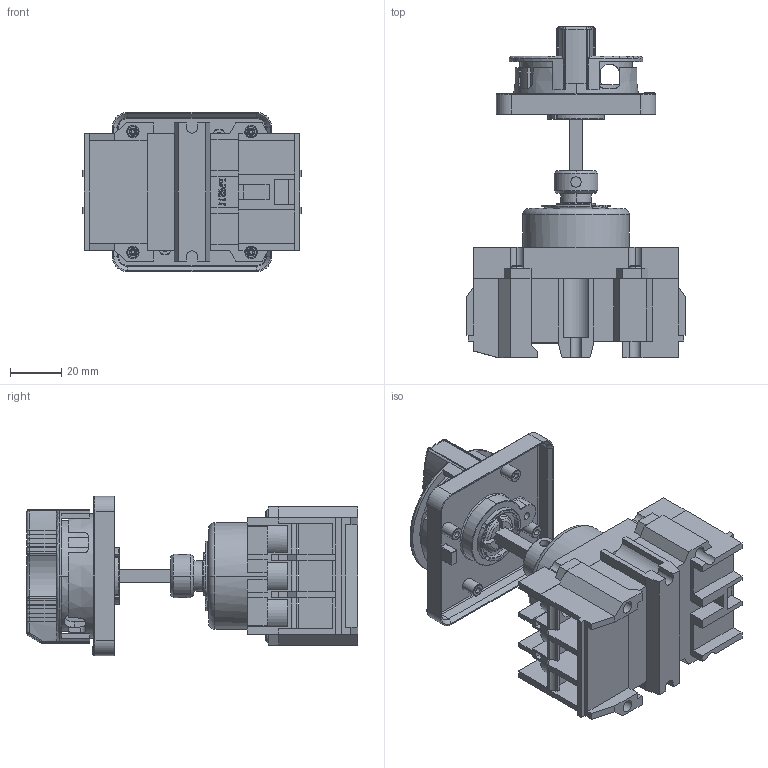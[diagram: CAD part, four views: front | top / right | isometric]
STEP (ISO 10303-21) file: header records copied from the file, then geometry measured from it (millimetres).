
FILE_DESCRIPTION (( 'STEP AP203' ), '1' );
FILE_NAME ('OptiSwitch DI-L2-63-3P.STEP', '2019-04-08T12:35:36', ( '' ), ( '' ), 'SwSTEP 2.0', 'SolidWorks 2018', '' );
FILE_SCHEMA (( 'CONFIG_CONTROL_DESIGN' ));
Length unit declared in the file: millimetre
Products named in the file (1): OptiSwitch DI-L2-63-3P
Bounding box: 85 x 129.1 x 62 mm (x, y, z)
Volume: 127974.1 mm3; surface area: 91995.2 mm2
Topology: 14 solids, 14 shells, 1654 faces, 4514 edges, 2939 vertices
Faces by surface type: plane 956, cylinder 343, bspline 176, torus 126, cone 29, sphere 24
Entity records: 56868 total; most frequent: CARTESIAN_POINT 15726, ORIENTED_EDGE 9008, DIRECTION 7905, EDGE_CURVE 4504, VERTEX_POINT 2938, VECTOR 2847, LINE 2847, AXIS2_PLACEMENT_3D 2529
